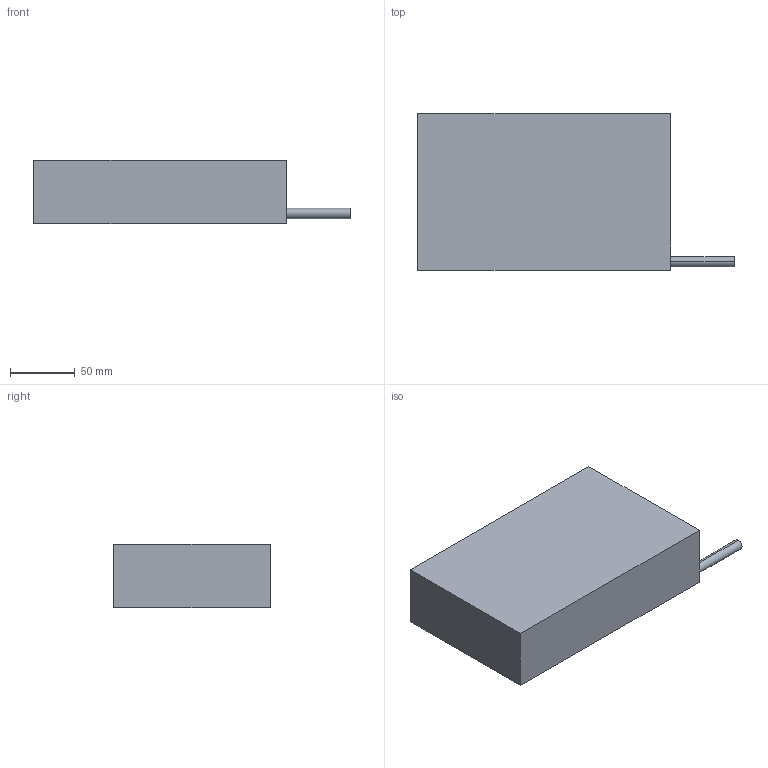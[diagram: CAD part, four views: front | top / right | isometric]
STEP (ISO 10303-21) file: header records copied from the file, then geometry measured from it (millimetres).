
FILE_DESCRIPTION (( 'STEP AP214' ), '1' );
FILE_NAME ('FLM-121-196.STEP', '2022-05-12T08:05:53', ( 'Microsoft' ), ( 'Microsoft' ), 'SwSTEP 2.0', 'SolidWorks 2016', '' );
FILE_SCHEMA (( 'AUTOMOTIVE_DESIGN' ));
Length unit declared in the file: millimetre
Products named in the file (1): FLM-121-196
Bounding box: 245.3 x 121 x 49.3 mm (x, y, z)
Volume: 1170177.5 mm3; surface area: 81220.2 mm2
Topology: 1 solids, 1 shells, 117 faces, 270 edges, 138 vertices
Faces by surface type: cone 72, cylinder 38, plane 7
Entity records: 3438 total; most frequent: DIRECTION 582, CARTESIAN_POINT 490, ORIENTED_EDGE 468, EDGE_CURVE 234, AXIS2_PLACEMENT_3D 230, VERTEX_POINT 138, EDGE_LOOP 136, LINE 122
